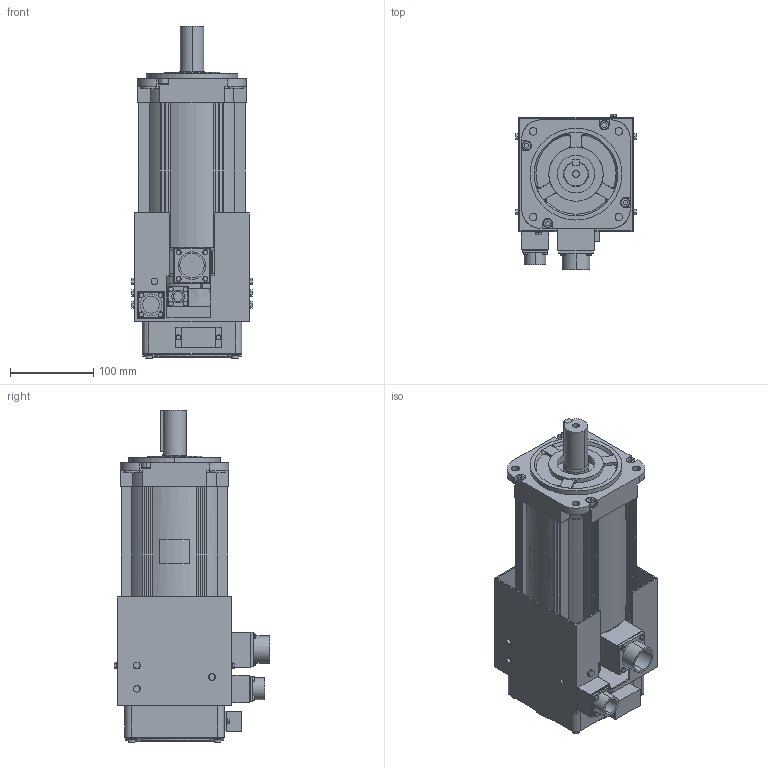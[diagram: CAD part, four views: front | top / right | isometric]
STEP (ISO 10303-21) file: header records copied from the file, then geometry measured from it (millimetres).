
FILE_DESCRIPTION (( 'STEP AP203' ), '1' );
FILE_NAME ('sgm7a_70a_a61.STEP', '2016-02-18T23:41:35', ( '匠エンジニアリング山之内' ), ( 'TAKUMI-Engniaring' ), 'SwSTEP 2.0', 'SolidWorks 2006303', '' );
FILE_SCHEMA (( 'CONFIG_CONTROL_DESIGN' ));
Length unit declared in the file: millimetre
Products named in the file (4): sgm7a_70a_a61_base; sgm7a_70a_a61; sgm7a_70a_a61_key; sgm7a_70a_a61_fan
Assembly tree (3 placements, depth 2):
  sgm7a_70a_a61
    sgm7a_70a_a61_base
    sgm7a_70a_a61_key
    sgm7a_70a_a61_fan
Bounding box: 144 x 186 x 397.7 mm (x, y, z)
Volume: 4261540.7 mm3; surface area: 438842.5 mm2
Topology: 3 solids, 3 shells, 1290 faces, 3547 edges, 2205 vertices
Faces by surface type: plane 935, cylinder 329, cone 20, bspline 6
Entity records: 41907 total; most frequent: CARTESIAN_POINT 7811, DIRECTION 7214, ORIENTED_EDGE 7094, EDGE_CURVE 3547, AXIS2_PLACEMENT_3D 2521, VERTEX_POINT 2205, VECTOR 2172, LINE 2172
